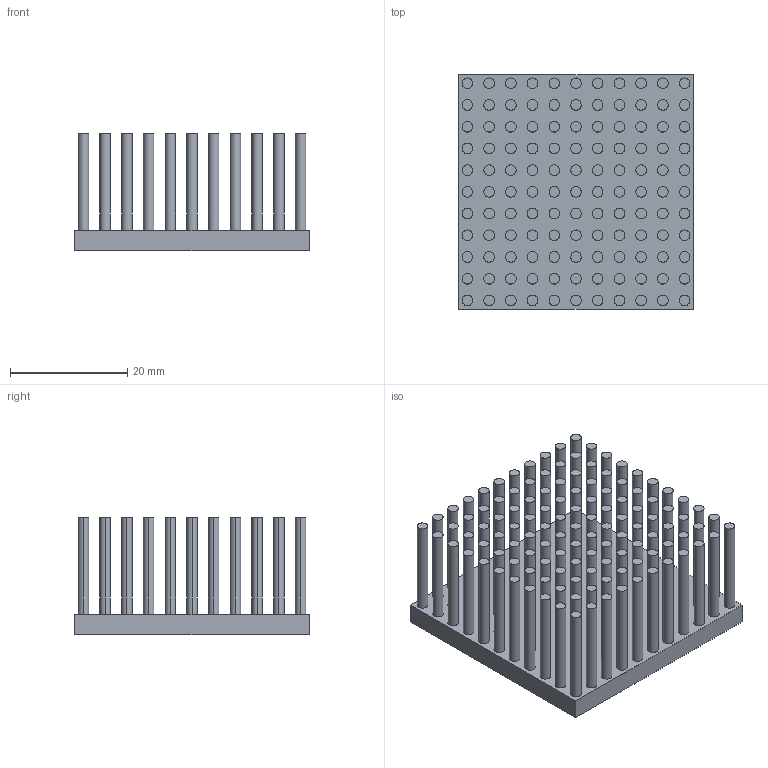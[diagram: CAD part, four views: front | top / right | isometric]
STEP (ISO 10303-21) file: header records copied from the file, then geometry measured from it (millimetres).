
FILE_DESCRIPTION (( 'STEP AP214' ), '1' );
FILE_NAME ('PB40-40-20-AL.STEP', '2014-01-09T13:47:26', ( '' ), ( '' ), 'SwSTEP 2.0', 'SolidWorks 2013', '' );
FILE_SCHEMA (( 'AUTOMOTIVE_DESIGN' ));
Length unit declared in the file: millimetre
Products named in the file (1): PB40-40-20-AL
Bounding box: 40 x 40 x 20 mm (x, y, z)
Volume: 10680.5 mm3; surface area: 15049.9 mm2
Topology: 1 solids, 1 shells, 369 faces, 738 edges, 492 vertices
Faces by surface type: cylinder 242, plane 127
Entity records: 9870 total; most frequent: DIRECTION 1962, CARTESIAN_POINT 1600, ORIENTED_EDGE 1476, AXIS2_PLACEMENT_3D 854, EDGE_CURVE 738, VERTEX_POINT 492, EDGE_LOOP 490, CIRCLE 484
